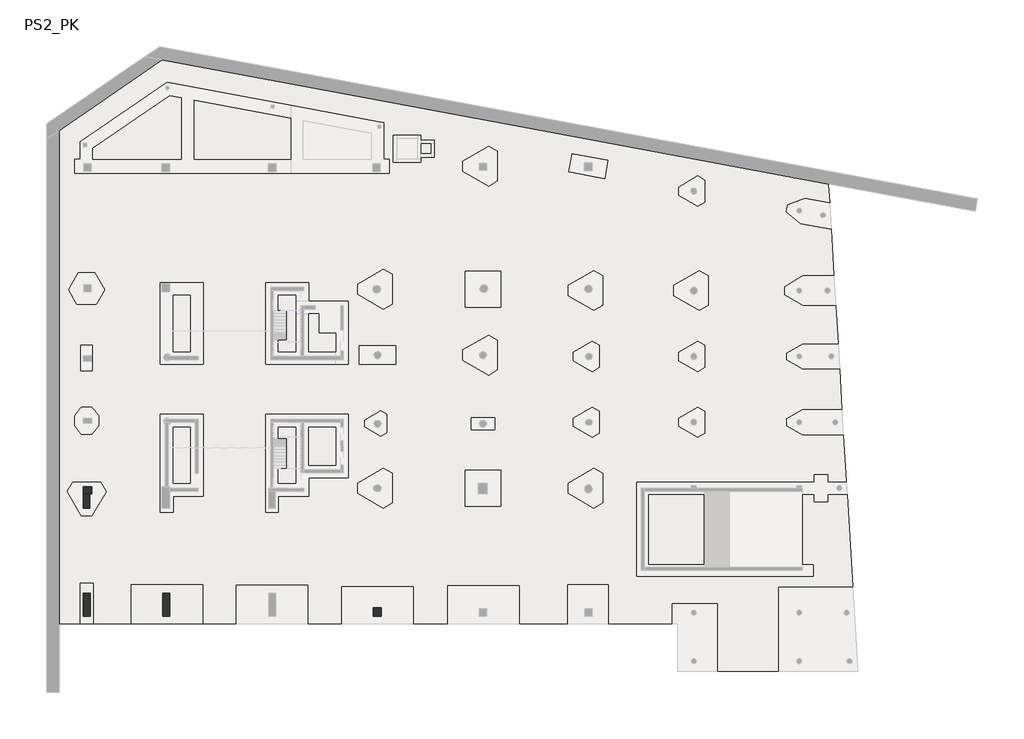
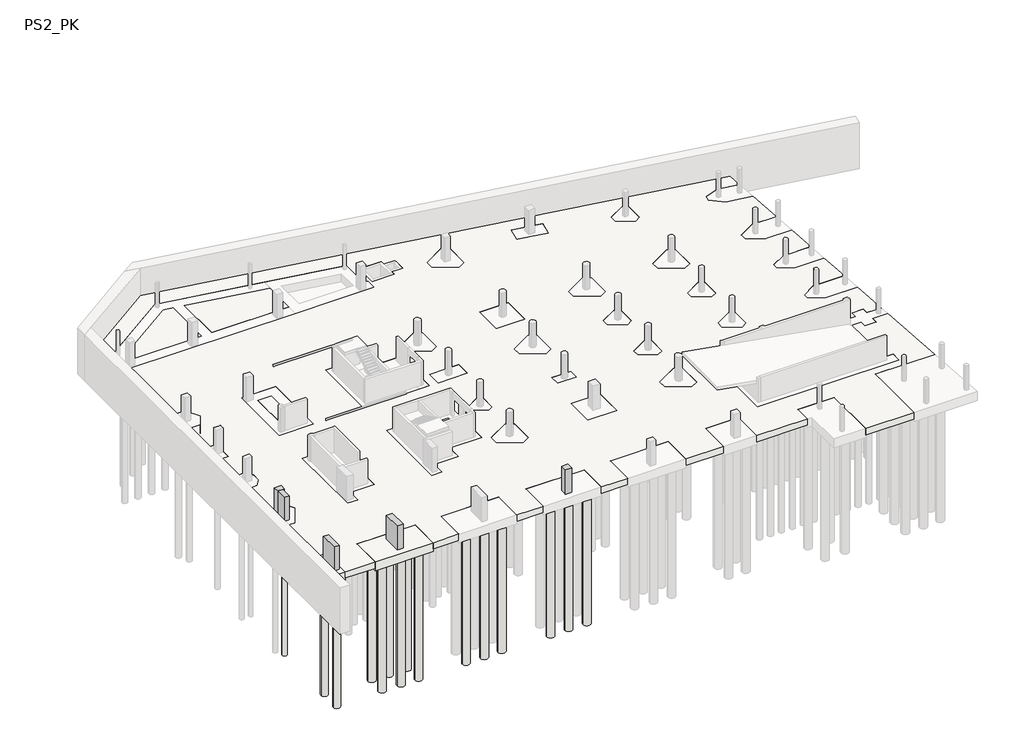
# One storey, part 2 of 10: 19 slabs, 5 columns.
"""IFC4 building model written with IfcOpenShell, lengths in millimetres."""

from ifc_helpers import new_model, si_unit, point, frame, frame_2d, origin, place, context, project, spatial, polyline, circle_curve, trimmed, segment, composite_curve, outline, extrude, faceted_brep, element, save

model = new_model("IFC4")

# Units and contexts
model_context = context("Model", 3, world=origin())
ifc_project = project(units=[si_unit("LENGTHUNIT", "METRE", prefix="MILLI")], contexts=[model_context])

# Site, building, storey
site = spatial("IfcSite", under=ifc_project)
building = spatial("IfcBuilding", under=site)
storey = spatial("IfcBuildingStorey", under=building, Name="PS2_PK", Elevation=-1600.0)

# Columns
placement = place(None, origin())
element("IfcColumn", 1, ObjectType="Concrete-Rectangular-Column : Pilar_Rectangular-Formigo-650x2200", at=placement, inside=storey, context=model_context, shape_type="Brep", body=[
    faceted_brep([(-30765.3135787, -14835.0992041, -1600.0), (-30765.3163586, -17035.0992041, -1600.0), (-31415.3163586, -17035.0983828, -1600.0), (-31415.3135787, -14835.0983828, -1600.0), (-30765.3135787, -14835.0992041, 1400.0), (-30765.3163586, -17035.0992041, 1400.0), (-31415.3163586, -17035.0983828, 1400.0), (-31415.3135787, -14835.0983828, 1400.0), (-30815.3284346, -14835.0991409, 1400.0)], [[[0, 1, 2, 3]], [[1, 0, 4, 5]], [[2, 1, 5, 6]], [[3, 2, 6, 7]], [[0, 3, 7, 8, 4]], [[5, 4, 8, 7, 6]]]),
])
element("IfcColumn", 2, ObjectType="Concrete-Rectangular-Column : Pilar_Rectangular-Formigo-700x2200", at=placement, inside=storey, context=model_context, shape_type="SweptSolid", body=[
    extrude(outline(polyline([(-23215.3135735, -14835.099963), (-23215.3163585, -17035.099963), (-23915.3163585, -17035.0990768), (-23915.3135735, -14835.0990768), (-23215.3135735, -14835.099963)])), frame((0.0, 0.0, -1600.0), z_axis=(0.0, 0.0, 1.0), x_axis=(1.0, 0.0, 0.0)), (0.0, 0.0, 1.0), 3050.0),
])
element("IfcColumn", 3, ObjectType="Concrete-Rectangular-Column : Pilar_Rectangular-Formigo-750x800", at=placement, inside=storey, context=model_context, shape_type="SweptSolid", body=[
    extrude(outline(polyline([(-3165.3153461, -16235.1196631), (-3165.3163562, -17035.1196631), (-3915.3163562, -17035.1187161), (-3915.3153461, -16235.1187161), (-3165.3153461, -16235.1196631)])), frame((0.0, 0.0, -1600.0), z_axis=(0.0, 0.0, 1.0), x_axis=(1.0, 0.0, 0.0)), (0.0, 0.0, 1.0), 3050.0),
])
element("IfcColumn", 4, ObjectType="Concrete-Rectangular-Column : Pilar_Rectangular-Formigo-650x800", at=placement, inside=storey, context=model_context, shape_type="Brep", body=[
    faceted_brep([(-31415.3382463, -4760.5656877, -1600.0), (-30615.3382463, -4760.5666974, -1600.0), (-30615.3390666, -5410.5666974, -1600.0), (-30815.2905417, -5410.566445, -1600.0), (-31415.3390666, -5410.5656877, -1600.0), (-31415.3382463, -4760.5656877, 1400.0), (-30615.3382463, -4760.5666974, 1400.0), (-30615.3390666, -5410.5666974, 1400.0), (-30815.2905417, -5410.566445, 1400.0), (-31415.3390666, -5410.5656877, 1400.0)], [[[0, 1, 2, 3, 4]], [[1, 0, 5, 6]], [[2, 1, 6, 7]], [[4, 3, 2, 7, 8, 9]], [[0, 4, 9, 5]], [[6, 5, 9, 8, 7]]]),
])
element("IfcColumn", 5, ObjectType="Concrete-Rectangular-Column : Pilar_Rectangular-Formigo-600x1900", at=placement, inside=storey, context=model_context, shape_type="SweptSolid", body=[
    extrude(outline(polyline([(-30815.2906071, -6785.0991439), (-31415.2906071, -6785.0991153), (-31415.2905417, -5410.5656877), (-30815.2905417, -5410.566445), (-30815.2906071, -6785.0991439)])), frame((0.0, 0.0, -1600.0), z_axis=(0.0, 0.0, 1.0), x_axis=(1.0, 0.0, 0.0)), (0.0, 0.0, 1.0), 3000.0),
])

# Slabs
element("IfcSlab", 6, ObjectType="Forjat_Llosa-Formigo-800", at=placement, inside=storey, context=model_context, shape_type="Brep", body=[
    faceted_brep([(-23930.3270635, 35743.361696, -2400.0), (39264.3843442, 23967.0549216, -2400.0), (39370.5104231, 22187.427328, -2400.0), (37018.9340764, 22601.0456277, -2400.0), (35327.7485575, 21984.6922065, -2400.0), (35215.1486836, 21344.5193628, -2400.0), (36594.5191648, 20188.086453, -2400.0), (39520.4286894, 19673.4488024, -2400.0), (39781.0118611, 15303.7311284, -2400.0), (36866.9022695, 15303.7348156, -2400.0), (35051.1197574, 14248.7780085, -2400.0), (35051.1187805, 13477.078865, -2400.0), (36866.8986333, 12428.7348156, -2400.0), (39952.4592477, 12428.7309115, -2400.0), (40166.479341, 8839.8292249, -2400.0), (36809.4552451, 8839.8334717, -2400.0), (35250.6083804, 7939.8354441, -2400.0), (35250.6075582, 7289.8354437, -2400.0), (36809.4521466, 6389.833472, -2400.0), (40312.5823311, 6389.8290421, -2400.0), (40538.4456274, 2602.3287555, -2400.0), (36809.447356, 2602.3334714, -2400.0), (35250.6004904, 1702.3354448, -2400.0), (35250.5996686, 1052.3354439, -2400.0), (36809.444257, 152.3334726, -2400.0), (40684.5486176, 152.3285708, -2400.0), (40949.1739317, -4285.1717655, -2400.0), (39234.6791175, -4285.1695956, -2400.0), (39234.6800305, -3563.1460018, -2400.0), (37884.6800304, -3563.1442939, -2400.0), (37884.6791174, -4285.1678881, -2400.0), (21034.6791178, -4285.1465742, -2400.0), (21034.6677332, -13285.1465747, -2400.0), (37884.6677328, -13285.1678881, -2400.0), (37884.669251, -12085.1678888, -2400.0), (22234.6692516, -12085.1480932, -2400.0), (22234.6776006, -5485.1480926, -2400.0), (37884.6775991, -5485.1678883, -2400.0), (37884.6766788, -6213.1442933, -2400.0), (39234.6766775, -6213.1460017, -2400.0), (39234.6775992, -5485.1695962, -2400.0), (41020.7345799, -5485.1718544, -2400.0), (41543.8177833, -14256.7510166, -2400.0), (34485.7399193, -14256.7420885, -2400.0), (34485.729816, -22244.2070348, -2400.0), (28744.3798642, -22244.2002778, -2400.0), (28744.3881261, -15810.1618334, -2400.0), (24409.6645394, -15810.1562743, -2400.0), (24409.6620967, -17733.5045639, -2400.0), (18431.1823523, -17733.3579028, -2400.0), (18431.1823523, -14006.1082963, -2400.0), (14475.6888375, -14006.1082963, -2400.0), (14475.6888375, -17733.2608686, -2400.0), (9972.6673336, -17733.1504027, -2400.0), (9972.6673336, -14101.0842931, -2400.0), (3072.6719289, -14101.0842931, -2400.0), (3072.6719289, -17732.9811353, -2400.0), (-65.3378924, -17732.9041552, -2400.0), (-65.3378924, -14176.6706788, -2400.0), (-6965.3333948, -14176.6706788, -2400.0), (-6965.3333948, -17732.7348879, -2400.0), (-10083.3637576, -17732.6583979, -2400.0), (-10083.3637576, -14034.840768, -2400.0), (-16983.359079, -14034.840768, -2400.0), (-16983.359079, -17732.4891306, -2400.0), (-20049.2299195, -17732.4139202, -2400.0), (-20049.2299195, -14013.9366756, -2400.0), (-26949.2252155, -14013.9366756, -2400.0), (-26949.2252155, -17732.2446529, -2400.0), (-30455.3378921, -17732.1586426, -2400.0), (-30455.3378921, -13862.9203006, -2400.0), (-31775.3329977, -13862.9203006, -2400.0), (-31775.3329977, -17732.1262612, -2400.0), (-33717.5141758, -17732.0786165, -2400.0), (-33717.5141758, 29038.6998048, -2400.0), (7855.899446, 6339.8700948, -2400.0), (7855.9029882, 9139.8700951, -2400.0), (7011.5288361, 9627.3711625, -2400.0), (4586.655934, 8227.3742298, -2400.0), (4586.6547012, 7252.3742307, -2400.0), (7011.5240598, 5852.3711635, -2400.0), (14586.6399646, -4397.6384189, -2400.0), (14586.6387319, -5372.6384181, -2400.0), (17011.5080914, -6772.6414857, -2400.0), (17855.8834767, -6285.1425544, -2400.0), (17855.8870193, -3485.1425542, -2400.0), (17011.5128659, -2997.6414858, -2400.0), (4784.6762081, -6585.1285205, -2400.0), (8184.676208, -6585.1328202, -2400.0), (8184.6805086, -3185.1328213, -2400.0), (4784.6805083, -3185.1285202, -2400.0), (-5413.3600354, -4397.6131204, -2400.0), (-5413.3612686, -5372.6131205, -2400.0), (-2988.4919086, -6772.6161877, -2400.0), (-2144.1165238, -6285.117256, -2400.0), (-2144.1129816, -3485.1172552, -2400.0), (-2988.4871337, -2997.6161874, -2400.0), (-10065.3141732, -3885.1075686, -2400.0), (-6290.3192274, -3885.1123435, -2400.0), (-6290.3116377, 2114.8879885, -2400.0), (-14115.3127876, 2114.8978864, -2400.0), (-14115.3245507, -7185.1021144, -2400.0), (-12915.32455, -7185.1036303, -2400.0), (-12915.3225908, -5635.1036314, -2400.0), (-10065.3163867, -5635.107237, -2400.0), (-22915.3225913, -5635.0909817, -2400.0), (-20065.3225907, -5635.0945878, -2400.0), (-20065.3127877, 2114.9054127, -2400.0), (-24115.3127885, 2114.9105356, -2400.0), (-24115.3245511, -7185.0894656, -2400.0), (-22915.3245514, -7185.0909829, -2400.0), (-31617.4416776, -7518.4958606, -2400.0), (-30613.5959454, -7518.4971295, -2400.0), (-29275.4616643, -5214.6478853, -2400.0), (-29771.9049698, -4341.102566, -2400.0), (-32445.1659501, -4341.0991851, -2400.0), (-32954.708224, -5195.2234012, -2400.0), (-30628.9635193, 212.290831, -2400.0), (-29986.983952, 1028.2899325, -2400.0), (-29986.9827209, 2001.5459919, -2400.0), (-30628.9602242, 2817.5467175, -2400.0), (-31602.2162837, 2817.547949, -2400.0), (-32244.195852, 2001.5488461, -2400.0), (-32244.1970835, 1028.2927876, -2400.0), (-31602.2195797, 212.2920616, -2400.0), (-2627.6389786, 352.3833557, -2400.0), (-2627.636701, 2152.3833555, -2400.0), (-3190.5528032, 2477.3840674, -2400.0), (-4749.3996674, 1577.3860385, -2400.0), (-4749.4004892, 927.3860381, -2400.0), (-3190.5559007, 27.3840668, -2400.0), (7609.6868326, 1814.8704068, -2400.0), (5359.6868331, 1814.8732535, -2400.0), (5359.6853796, 664.8732536, -2400.0), (7609.6853782, 664.8704069, -2400.0), (16866.8864598, 2803.7601136, -2400.0), (15051.103945, 1748.8033065, -2400.0), (15051.1029689, 977.1041625, -2400.0), (16866.8828223, -71.2398878, -2400.0), (17538.0530008, 316.2592648, -2400.0), (17538.0556559, 2416.2592644, -2400.0), (26866.8864584, 2803.7474639, -2400.0), (25051.1039459, 1748.7906587, -2400.0), (25051.102968, 977.0915147, -2400.0), (26866.8828227, -71.2525361, -2400.0), (27538.0529998, 316.2466155, -2400.0), (27538.0556568, 2416.2466151, -2400.0), (26866.8943642, 9053.7474649, -2400.0), (25051.1118512, 7998.7906582, -2400.0), (25051.1108747, 7227.0915137, -2400.0), (26866.890728, 6178.7474644, -2400.0), (27538.0609065, 6566.2466146, -2400.0), (27538.0635631, 8666.2466161, -2400.0), (16866.8943642, 9053.7601136, -2400.0), (15051.1118503, 7998.8033075, -2400.0), (15051.1108738, 7227.104163, -2400.0), (16866.8907276, 6178.7601132, -2400.0), (17538.0609065, 6566.2592643, -2400.0), (17538.0635621, 8666.2592644, -2400.0), (-1790.3045642, 8614.8822969, -2400.0), (-5240.3045662, 8614.8866605, -2400.0), (-5240.3067795, 6864.8866605, -2400.0), (-1790.3067797, 6864.8822969, -2400.0), (-10065.2929865, 12864.8930964, -2400.0), (-10065.2907731, 14614.8927644, -2400.0), (-14115.296976, 14614.8978873, -2400.0), (-14115.3067799, 6864.8978864, -2400.0), (-6290.3056291, 6864.887989, -2400.0), (-6290.2980398, 12864.8883215, -2400.0), (-24115.306779, 6864.9105361, -2400.0), (-20065.3067796, 6864.9054127, -2400.0), (-20065.2969757, 14614.9054118, -2400.0), (-24115.296976, 14614.9105356, -2400.0), (-30565.5808257, 8689.9186941, -2400.0), (-31665.5808262, 8689.9200851, -2400.0), (-31665.5839247, 6239.9200849, -2400.0), (-30565.583926, 6239.9186948, -2400.0), (-30186.3842538, 12576.4055184, -2400.0), (-29409.1416483, 13922.6252674, -2400.0), (-30342.1577997, 15538.6613654, -2400.0), (-31896.6396031, 15538.6633324, -2400.0), (-32829.6598431, 13922.6295949, -2400.0), (-32052.4206442, 12576.4078785, -2400.0), (-23482.9022416, 33625.5735157, -2400.0), (-31715.282563, 27986.0387498, -2400.0), (-31715.2846771, 26314.9201486, -2400.0), (-32240.2821764, 26314.9208126, -2400.0), (-32240.2838215, 25014.9208132, -2400.0), (-2390.2838219, 25014.8830557, -2400.0), (-2390.2821778, 26314.883056, -2400.0), (-2915.2796771, 26314.8837209, -2400.0), (-2915.2752776, 29792.7810884, -2400.0), (-2144.0891069, 15389.8827438, -2400.0), (-2988.4632595, 15877.3838122, -2400.0), (-5413.3361598, 14477.3868796, -2400.0), (-5413.337393, 13502.3868799, -2400.0), (-2988.4680339, 12102.3838123, -2400.0), (-2144.0926487, 12589.8827436, -2400.0), (8184.7043828, 15689.8696803, -2400.0), (4784.7043825, 15689.8739809, -2400.0), (4784.7000828, 12289.8739801, -2400.0), (8184.7000817, 12289.8696794, -2400.0), (17855.9107353, 15264.8574449, -2400.0), (17011.5365827, 15752.3585142, -2400.0), (14586.6636815, 14352.3615815, -2400.0), (14586.6624488, 13377.3615819, -2400.0), (17011.5318083, 11977.3585138, -2400.0), (17855.9071944, 12464.8574465, -2400.0), (27855.9107353, 15264.8447975, -2400.0), (27011.5365827, 15752.3458654, -2400.0), (24586.663681, 14352.3489323, -2400.0), (24586.6624473, 13377.3489331, -2400.0), (27011.5318087, 11977.3458655, -2400.0), (27855.9071935, 12464.8447963, -2400.0), (26866.9142071, 24740.9213301, -2400.0), (25051.1316927, 23685.9645249, -2400.0), (25051.1307172, 22914.2653799, -2400.0), (26866.91057, 21865.9213306, -2400.0), (27538.0807481, 22253.4204822, -2400.0), (27538.0834055, 24353.4204823, -2400.0), (18340.8208483, 26209.03609, -2400.0), (14949.2078667, 26841.0656674, -2400.0), (14628.6131535, 25120.682271, -2400.0), (18020.2261355, 24488.652694, -2400.0), (7855.9256607, 27064.8700958, -2400.0), (7011.5515081, 27552.3711641, -2400.0), (4586.6786083, 26152.374231, -2400.0), (4586.6773742, 25177.3742305, -2400.0), (7011.5467341, 23777.3711633, -2400.0), (7855.9221194, 24264.870096, -2400.0), (1884.7180916, 26522.598493, -2400.0), (1884.7201149, 28122.5984937, -2400.0), (584.7201154, 28122.6001377, -2400.0), (584.7207465, 28621.4217283, -2400.0), (-2015.2792535, 28621.4250168, -2400.0), (-2015.2825509, 26014.8825801, -2400.0), (584.7174486, 26014.879291, -2400.0), (584.718091, 26522.6001382, -2400.0), (39264.3843442, 23967.0549216, -1600.0), (-23930.3270635, 35743.361696, -1600.0), (-33717.5141758, 29038.6998048, -1600.0), (-33717.5141758, -17732.0786165, -1600.0), (-31775.3329977, -17732.1262612, -1600.0), (-31775.3329977, -13862.9203006, -1600.0), (-30455.3378921, -13862.9203006, -1600.0), (-30455.3378921, -17732.1586426, -1600.0), (-26949.2252155, -17732.2446529, -1600.0), (-26949.2252155, -14013.9366756, -1600.0), (-20049.2299195, -14013.9366756, -1600.0), (-20049.2299195, -17732.4139202, -1600.0), (-16983.359079, -17732.4891306, -1600.0), (-16983.359079, -14034.840768, -1600.0), (-10083.3637576, -14034.840768, -1600.0), (-10083.3637576, -17732.6583979, -1600.0), (-6965.3333948, -17732.7348879, -1600.0), (-6965.3333948, -14176.6706788, -1600.0), (-65.3378924, -14176.6706788, -1600.0), (-65.3378924, -17732.9041552, -1600.0), (3072.6719289, -17732.9811353, -1600.0), (3072.6719289, -14101.0842931, -1600.0), (9972.6673336, -14101.0842931, -1600.0), (9972.6673336, -17733.1504027, -1600.0), (14475.6888375, -17733.2608686, -1600.0), (14475.6888375, -14006.1082963, -1600.0), (18431.1823523, -14006.1082963, -1600.0), (18431.1823523, -17733.3579028, -1600.0), (24409.6620967, -17733.5045639, -1600.0), (24409.6645394, -15810.1562743, -1600.0), (28744.3881261, -15810.1618334, -1600.0), (28744.3798642, -22244.2002778, -1600.0), (34485.729816, -22244.2070348, -1600.0), (34485.7399193, -14256.7420885, -1600.0), (41543.8177833, -14256.7510166, -1600.0), (41020.7345799, -5485.1718544, -1600.0), (39234.6775992, -5485.1695962, -1600.0), (39234.6766775, -6213.1460017, -1600.0), (37884.6766788, -6213.1442933, -1600.0), (37884.6775991, -5485.1678883, -1600.0), (22234.6776006, -5485.1480926, -1600.0), (22234.6692516, -12085.1480932, -1600.0), (37884.669251, -12085.1678888, -1600.0), (37884.6677328, -13285.1678881, -1600.0), (21034.6677332, -13285.1465747, -1600.0), (21034.6791178, -4285.1465742, -1600.0), (37884.6791174, -4285.1678881, -1600.0), (37884.6800304, -3563.1442939, -1600.0), (39234.6800305, -3563.1460018, -1600.0), (39234.6791175, -4285.1695956, -1600.0), (40949.1739317, -4285.1717655, -1600.0), (40684.5486176, 152.3285708, -1600.0), (36809.444257, 152.3334726, -1600.0), (35250.5996686, 1052.3354439, -1600.0), (35250.6004904, 1702.3354448, -1600.0), (36809.447356, 2602.3334714, -1600.0), (40538.4456274, 2602.3287555, -1600.0), (40312.5823311, 6389.8290421, -1600.0), (36809.4521466, 6389.833472, -1600.0), (35250.6075582, 7289.8354437, -1600.0), (35250.6083804, 7939.8354441, -1600.0), (36809.4552451, 8839.8334717, -1600.0), (40166.479341, 8839.8292249, -1600.0), (39952.4592477, 12428.7309115, -1600.0), (36866.8986333, 12428.7348156, -1600.0), (35051.1187805, 13477.078865, -1600.0), (35051.1197574, 14248.7780085, -1600.0), (36866.9022695, 15303.7348156, -1600.0), (39781.0118611, 15303.7311284, -1600.0), (39520.4286894, 19673.4488024, -1600.0), (36594.5191648, 20188.086453, -1600.0), (35215.1486836, 21344.5193628, -1600.0), (35327.7485575, 21984.6922065, -1600.0), (37018.9340764, 22601.0456277, -1600.0), (39370.5104231, 22187.427328, -1600.0), (7855.9029882, 9139.8700951, -1600.0), (7855.899446, 6339.8700948, -1600.0), (7011.5240598, 5852.3711635, -1600.0), (4586.6547012, 7252.3742307, -1600.0), (4586.655934, 8227.3742298, -1600.0), (7011.5288361, 9627.3711625, -1600.0), (14586.6387319, -5372.6384181, -1600.0), (14586.6399646, -4397.6384189, -1600.0), (17011.5128659, -2997.6414858, -1600.0), (17855.8870193, -3485.1425542, -1600.0), (17855.8834767, -6285.1425544, -1600.0), (17011.5080914, -6772.6414857, -1600.0), (8184.676208, -6585.1328202, -1600.0), (4784.6762081, -6585.1285205, -1600.0), (4784.6805083, -3185.1285202, -1600.0), (8184.6805086, -3185.1328213, -1600.0), (-5413.3612686, -5372.6131205, -1600.0), (-5413.3600354, -4397.6131204, -1600.0), (-2988.4871337, -2997.6161874, -1600.0), (-2144.1129816, -3485.1172552, -1600.0), (-2144.1165238, -6285.117256, -1600.0), (-2988.4919086, -6772.6161877, -1600.0), (-6290.3192274, -3885.1123435, -1600.0), (-10065.3141732, -3885.1075686, -1600.0), (-10065.3163867, -5635.107237, -1600.0), (-12915.3225908, -5635.1036314, -1600.0), (-12915.32455, -7185.1036303, -1600.0), (-14115.3245507, -7185.1021144, -1600.0), (-14115.3127876, 2114.8978864, -1600.0), (-6290.3116377, 2114.8879885, -1600.0), (-20065.3225907, -5635.0945878, -1600.0), (-22915.3225913, -5635.0909817, -1600.0), (-22915.3245514, -7185.0909829, -1600.0), (-24115.3245511, -7185.0894656, -1600.0), (-24115.3127885, 2114.9105356, -1600.0), (-20065.3127877, 2114.9054127, -1600.0), (-30613.5959454, -7518.4971295, -1600.0), (-31617.4416776, -7518.4958606, -1600.0), (-32954.708224, -5195.2234012, -1600.0), (-32445.1659501, -4341.0991851, -1600.0), (-29771.9049698, -4341.102566, -1600.0), (-29275.4616643, -5214.6478853, -1600.0), (-29986.983952, 1028.2899325, -1600.0), (-30628.9635193, 212.290831, -1600.0), (-31602.2195797, 212.2920616, -1600.0), (-32244.1970835, 1028.2927876, -1600.0), (-32244.195852, 2001.5488461, -1600.0), (-31602.2162837, 2817.547949, -1600.0), (-30628.9602242, 2817.5467175, -1600.0), (-29986.9827209, 2001.5459919, -1600.0), (-2627.636701, 2152.3833555, -1600.0), (-2627.6389786, 352.3833557, -1600.0), (-3190.5559007, 27.3840668, -1600.0), (-4749.4004892, 927.3860381, -1600.0), (-4749.3996674, 1577.3860385, -1600.0), (-3190.5528032, 2477.3840674, -1600.0), (5359.6868331, 1814.8732535, -1600.0), (7609.6868326, 1814.8704068, -1600.0), (7609.6853782, 664.8704069, -1600.0), (5359.6853796, 664.8732536, -1600.0), (15051.103945, 1748.8033065, -1600.0), (16866.8864598, 2803.7601136, -1600.0), (17538.0556559, 2416.2592644, -1600.0), (17538.0530008, 316.2592648, -1600.0), (16866.8828223, -71.2398878, -1600.0), (15051.1029689, 977.1041625, -1600.0), (25051.1039459, 1748.7906587, -1600.0), (26866.8864584, 2803.7474639, -1600.0), (27538.0556568, 2416.2466151, -1600.0), (27538.0529998, 316.2466155, -1600.0), (26866.8828227, -71.2525361, -1600.0), (25051.102968, 977.0915147, -1600.0), (25051.1118512, 7998.7906582, -1600.0), (26866.8943642, 9053.7474649, -1600.0), (27538.0635631, 8666.2466161, -1600.0), (27538.0609065, 6566.2466146, -1600.0), (26866.890728, 6178.7474644, -1600.0), (25051.1108747, 7227.0915137, -1600.0), (15051.1118503, 7998.8033075, -1600.0), (16866.8943642, 9053.7601136, -1600.0), (17538.0635621, 8666.2592644, -1600.0), (17538.0609065, 6566.2592643, -1600.0), (16866.8907276, 6178.7601132, -1600.0), (15051.1108738, 7227.104163, -1600.0), (-5240.3045662, 8614.8866605, -1600.0), (-1790.3045642, 8614.8822969, -1600.0), (-1790.3067797, 6864.8822969, -1600.0), (-5240.3067795, 6864.8866605, -1600.0), (-10065.2907731, 14614.8927644, -1600.0), (-10065.2929865, 12864.8930964, -1600.0), (-6290.2980398, 12864.8883215, -1600.0), (-6290.3056291, 6864.887989, -1600.0), (-7490.3056279, 6864.8895068, -1600.0), (-14115.3067799, 6864.8978864, -1600.0), (-14115.296976, 14614.8978873, -1600.0), (-20065.3067796, 6864.9054127, -1600.0), (-24115.306779, 6864.9105361, -1600.0), (-24115.296976, 14614.9105356, -1600.0), (-20065.2969757, 14614.9054118, -1600.0), (-31665.5808262, 8689.9200851, -1600.0), (-30565.5808257, 8689.9186941, -1600.0), (-30565.583926, 6239.9186948, -1600.0), (-31665.5839247, 6239.9200849, -1600.0), (-29409.1416483, 13922.6252674, -1600.0), (-30186.3842538, 12576.4055184, -1600.0), (-32052.4206442, 12576.4078785, -1600.0), (-32829.6598431, 13922.6295949, -1600.0), (-31896.6396031, 15538.6633324, -1600.0), (-30342.1577997, 15538.6613654, -1600.0), (-31715.282563, 27986.0387498, -1600.0), (-23482.9022416, 33625.5735157, -1600.0), (-11740.275697, 31437.3264138, -1600.0), (-2915.2752776, 29792.7810884, -1600.0), (-2915.2796771, 26314.8837209, -1600.0), (-2390.2821778, 26314.883056, -1600.0), (-2390.2838219, 25014.8830557, -1600.0), (-11740.2838214, 25014.8948826, -1600.0), (-32240.2838215, 25014.9208132, -1600.0), (-32240.2821764, 26314.9208126, -1600.0), (-31715.2846771, 26314.9201486, -1600.0), (-2988.4632595, 15877.3838122, -1600.0), (-2144.0891069, 15389.8827438, -1600.0), (-2144.0926487, 12589.8827436, -1600.0), (-2988.4680339, 12102.3838123, -1600.0), (-5413.337393, 13502.3868799, -1600.0), (-5413.3361598, 14477.3868796, -1600.0), (4784.7043825, 15689.8739809, -1600.0), (8184.7043828, 15689.8696803, -1600.0), (8184.7000817, 12289.8696794, -1600.0), (4784.7000828, 12289.8739801, -1600.0), (17011.5365827, 15752.3585142, -1600.0), (17855.9107353, 15264.8574449, -1600.0), (17855.9071944, 12464.8574465, -1600.0), (17011.5318083, 11977.3585138, -1600.0), (14586.6624488, 13377.3615819, -1600.0), (14586.6636815, 14352.3615815, -1600.0), (27011.5365827, 15752.3458654, -1600.0), (27855.9107353, 15264.8447975, -1600.0), (27855.9071935, 12464.8447963, -1600.0), (27011.5318087, 11977.3458655, -1600.0), (24586.6624473, 13377.3489331, -1600.0), (24586.663681, 14352.3489323, -1600.0), (25051.1316927, 23685.9645249, -1600.0), (26866.9142071, 24740.9213301, -1600.0), (27538.0834055, 24353.4204823, -1600.0), (27538.0807481, 22253.4204822, -1600.0), (26866.91057, 21865.9213306, -1600.0), (25051.1307172, 22914.2653799, -1600.0), (14949.2078667, 26841.0656674, -1600.0), (18340.8208483, 26209.03609, -1600.0), (18020.2261355, 24488.652694, -1600.0), (14628.6131535, 25120.682271, -1600.0), (7011.5515081, 27552.3711641, -1600.0), (7855.9256607, 27064.8700958, -1600.0), (7855.9221194, 24264.870096, -1600.0), (7011.5467341, 23777.3711633, -1600.0), (4586.6773742, 25177.3742305, -1600.0), (4586.6786083, 26152.374231, -1600.0), (1884.7201149, 28122.5984937, -1600.0), (1884.7180916, 26522.598493, -1600.0), (584.718091, 26522.6001382, -1600.0), (584.7174486, 26014.879291, -1600.0), (-2015.2825509, 26014.8825801, -1600.0), (-2015.2792535, 28621.4250168, -1600.0), (584.7207465, 28621.4217283, -1600.0), (584.7201154, 28122.6001377, -1600.0)], [[[0, 1, 2, 3, 4, 5, 6, 7, 8, 9, 10, 11, 12, 13, 14, 15, 16, 17, 18, 19, 20, 21, 22, 23, 24, 25, 26, 27, 28, 29, 30, 31, 32, 33, 34, 35, 36, 37, 38, 39, 40, 41, 42, 43, 44, 45, 46, 47, 48, 49, 50, 51, 52, 53, 54, 55, 56, 57, 58, 59, 60, 61, 62, 63, 64, 65, 66, 67, 68, 69, 70, 71, 72, 73, 74], [75, 76, 77, 78, 79, 80], [81, 82, 83, 84, 85, 86], [87, 88, 89, 90], [91, 92, 93, 94, 95, 96], [97, 98, 99, 100, 101, 102, 103, 104], [105, 106, 107, 108, 109, 110], [111, 112, 113, 114, 115, 116], [117, 118, 119, 120, 121, 122, 123, 124], [125, 126, 127, 128, 129, 130], [131, 132, 133, 134], [135, 136, 137, 138, 139, 140], [141, 142, 143, 144, 145, 146], [147, 148, 149, 150, 151, 152], [153, 154, 155, 156, 157, 158], [159, 160, 161, 162], [163, 164, 165, 166, 167, 168], [169, 170, 171, 172], [173, 174, 175, 176], [177, 178, 179, 180, 181, 182], [183, 184, 185, 186, 187, 188, 189, 190, 191], [192, 193, 194, 195, 196, 197], [198, 199, 200, 201], [202, 203, 204, 205, 206, 207], [208, 209, 210, 211, 212, 213], [214, 215, 216, 217, 218, 219], [220, 221, 222, 223], [224, 225, 226, 227, 228, 229], [230, 231, 232, 233, 234, 235, 236, 237]], [[238, 239, 240, 241, 242, 243, 244, 245, 246, 247, 248, 249, 250, 251, 252, 253, 254, 255, 256, 257, 258, 259, 260, 261, 262, 263, 264, 265, 266, 267, 268, 269, 270, 271, 272, 273, 274, 275, 276, 277, 278, 279, 280, 281, 282, 283, 284, 285, 286, 287, 288, 289, 290, 291, 292, 293, 294, 295, 296, 297, 298, 299, 300, 301, 302, 303, 304, 305, 306, 307, 308, 309, 310, 311, 312], [313, 314, 315, 316, 317, 318], [319, 320, 321, 322, 323, 324], [325, 326, 327, 328], [329, 330, 331, 332, 333, 334], [335, 336, 337, 338, 339, 340, 341, 342], [343, 344, 345, 346, 347, 348], [349, 350, 351, 352, 353, 354], [355, 356, 357, 358, 359, 360, 361, 362], [363, 364, 365, 366, 367, 368], [369, 370, 371, 372], [373, 374, 375, 376, 377, 378], [379, 380, 381, 382, 383, 384], [385, 386, 387, 388, 389, 390], [391, 392, 393, 394, 395, 396], [397, 398, 399, 400], [401, 402, 403, 404, 405, 406, 407], [408, 409, 410, 411], [412, 413, 414, 415], [416, 417, 418, 419, 420, 421], [422, 423, 424, 425, 426, 427, 428, 429, 430, 431, 432], [433, 434, 435, 436, 437, 438], [439, 440, 441, 442], [443, 444, 445, 446, 447, 448], [449, 450, 451, 452, 453, 454], [455, 456, 457, 458, 459, 460], [461, 462, 463, 464], [465, 466, 467, 468, 469, 470], [471, 472, 473, 474, 475, 476, 477, 478]], [[1, 0, 239, 238]], [[1, 238, 312, 2]], [[272, 42, 41, 273]], [[288, 26, 25, 289]], [[294, 20, 19, 295]], [[300, 14, 13, 301]], [[306, 8, 7, 307]], [[269, 45, 44, 270]], [[241, 73, 72, 242]], [[253, 61, 60, 254]], [[64, 250, 249, 65]], [[68, 246, 245, 69]], [[257, 57, 56, 258]], [[261, 53, 52, 262]], [[265, 49, 48, 266]], [[74, 73, 241, 240]], [[0, 74, 240, 239]], [[313, 76, 75, 314]], [[314, 75, 80, 315]], [[315, 80, 79, 316]], [[316, 79, 78, 317]], [[317, 78, 77, 318]], [[76, 313, 318, 77]], [[252, 62, 61, 253]], [[63, 251, 250, 64]], [[62, 252, 251, 63]], [[248, 66, 65, 249]], [[67, 247, 246, 68]], [[66, 248, 247, 67]], [[244, 70, 69, 245]], [[71, 243, 242, 72]], [[70, 244, 243, 71]], [[256, 58, 57, 257]], [[59, 255, 254, 60]], [[58, 256, 255, 59]], [[260, 54, 53, 261]], [[55, 259, 258, 56]], [[54, 260, 259, 55]], [[264, 50, 49, 265]], [[51, 263, 262, 52]], [[50, 264, 263, 51]], [[47, 267, 266, 48]], [[267, 47, 46, 268]], [[268, 46, 45, 269]], [[271, 43, 42, 272]], [[43, 271, 270, 44]], [[274, 40, 39, 275]], [[275, 39, 38, 276]], [[276, 38, 37, 277]], [[277, 37, 36, 278]], [[278, 36, 35, 279]], [[279, 35, 34, 280]], [[280, 34, 33, 281]], [[281, 33, 32, 282]], [[282, 32, 31, 283]], [[283, 31, 30, 284]], [[284, 30, 29, 285]], [[285, 29, 28, 286]], [[286, 28, 27, 287]], [[287, 27, 26, 288]], [[40, 274, 273, 41]], [[319, 82, 81, 320]], [[320, 81, 86, 321]], [[321, 86, 85, 322]], [[322, 85, 84, 323]], [[323, 84, 83, 324]], [[82, 319, 324, 83]], [[325, 88, 87, 326]], [[326, 87, 90, 327]], [[327, 90, 89, 328]], [[88, 325, 328, 89]], [[329, 92, 91, 330]], [[330, 91, 96, 331]], [[331, 96, 95, 332]], [[332, 95, 94, 333]], [[333, 94, 93, 334]], [[92, 329, 334, 93]], [[335, 98, 97, 336]], [[336, 97, 104, 337]], [[337, 104, 103, 338]], [[338, 103, 102, 339]], [[339, 102, 101, 340]], [[340, 101, 100, 341]], [[341, 100, 99, 342]], [[98, 335, 342, 99]], [[343, 106, 105, 344]], [[344, 105, 110, 345]], [[345, 110, 109, 346]], [[346, 109, 108, 347]], [[347, 108, 107, 348]], [[106, 343, 348, 107]], [[349, 112, 111, 350]], [[350, 111, 116, 351]], [[351, 116, 115, 352]], [[352, 115, 114, 353]], [[353, 114, 113, 354]], [[112, 349, 354, 113]], [[355, 118, 117, 356]], [[356, 117, 124, 357]], [[357, 124, 123, 358]], [[358, 123, 122, 359]], [[359, 122, 121, 360]], [[360, 121, 120, 361]], [[361, 120, 119, 362]], [[118, 355, 362, 119]], [[363, 126, 125, 364]], [[364, 125, 130, 365]], [[365, 130, 129, 366]], [[366, 129, 128, 367]], [[367, 128, 127, 368]], [[126, 363, 368, 127]], [[369, 132, 131, 370]], [[370, 131, 134, 371]], [[371, 134, 133, 372]], [[132, 369, 372, 133]], [[373, 136, 135, 374]], [[374, 135, 140, 375]], [[375, 140, 139, 376]], [[376, 139, 138, 377]], [[377, 138, 137, 378]], [[136, 373, 378, 137]], [[379, 142, 141, 380]], [[380, 141, 146, 381]], [[381, 146, 145, 382]], [[382, 145, 144, 383]], [[383, 144, 143, 384]], [[142, 379, 384, 143]], [[23, 291, 290, 24]], [[291, 23, 22, 292]], [[292, 22, 21, 293]], [[293, 21, 20, 294]], [[24, 290, 289, 25]], [[296, 18, 17, 297]], [[297, 17, 16, 298]], [[298, 16, 15, 299]], [[299, 15, 14, 300]], [[18, 296, 295, 19]], [[385, 148, 147, 386]], [[386, 147, 152, 387]], [[387, 152, 151, 388]], [[388, 151, 150, 389]], [[389, 150, 149, 390]], [[148, 385, 390, 149]], [[391, 154, 153, 392]], [[392, 153, 158, 393]], [[393, 158, 157, 394]], [[394, 157, 156, 395]], [[395, 156, 155, 396]], [[154, 391, 396, 155]], [[397, 160, 159, 398]], [[398, 159, 162, 399]], [[399, 162, 161, 400]], [[160, 397, 400, 161]], [[401, 164, 163, 402]], [[166, 406, 405, 404, 167]], [[406, 166, 165, 407]], [[164, 401, 407, 165]], [[408, 170, 169, 409]], [[409, 169, 172, 410]], [[410, 172, 171, 411]], [[170, 408, 411, 171]], [[412, 174, 173, 413]], [[413, 173, 176, 414]], [[414, 176, 175, 415]], [[174, 412, 415, 175]], [[416, 178, 177, 417]], [[417, 177, 182, 418]], [[418, 182, 181, 419]], [[419, 181, 180, 420]], [[420, 180, 179, 421]], [[178, 416, 421, 179]], [[422, 184, 183, 423]], [[423, 183, 191, 425, 424]], [[187, 430, 429, 428, 188]], [[430, 187, 186, 431]], [[431, 186, 185, 432]], [[184, 422, 432, 185]], [[425, 191, 190, 426]], [[426, 190, 189, 427]], [[427, 189, 188, 428]], [[433, 193, 192, 434]], [[434, 192, 197, 435]], [[435, 197, 196, 436]], [[436, 196, 195, 437]], [[437, 195, 194, 438]], [[193, 433, 438, 194]], [[439, 199, 198, 440]], [[440, 198, 201, 441]], [[441, 201, 200, 442]], [[199, 439, 442, 200]], [[443, 203, 202, 444]], [[444, 202, 207, 445]], [[445, 207, 206, 446]], [[446, 206, 205, 447]], [[447, 205, 204, 448]], [[203, 443, 448, 204]], [[449, 209, 208, 450]], [[450, 208, 213, 451]], [[451, 213, 212, 452]], [[452, 212, 211, 453]], [[453, 211, 210, 454]], [[209, 449, 454, 210]], [[302, 12, 11, 303]], [[303, 11, 10, 304]], [[304, 10, 9, 305]], [[305, 9, 8, 306]], [[12, 302, 301, 13]], [[310, 4, 3, 311]], [[308, 6, 5, 309]], [[4, 310, 309, 5]], [[311, 3, 2, 312]], [[6, 308, 307, 7]], [[455, 215, 214, 456]], [[456, 214, 219, 457]], [[457, 219, 218, 458]], [[458, 218, 217, 459]], [[459, 217, 216, 460]], [[215, 455, 460, 216]], [[461, 221, 220, 462]], [[462, 220, 223, 463]], [[463, 223, 222, 464]], [[221, 461, 464, 222]], [[465, 225, 224, 466]], [[466, 224, 229, 467]], [[467, 229, 228, 468]], [[468, 228, 227, 469]], [[469, 227, 226, 470]], [[225, 465, 470, 226]], [[231, 230, 472, 471]], [[232, 231, 471, 478]], [[233, 232, 478, 477]], [[234, 233, 477, 476]], [[235, 234, 476, 475]], [[236, 235, 475, 474]], [[237, 236, 474, 473]], [[230, 237, 473, 472]], [[168, 403, 402, 163]], [[403, 168, 167, 404]]]),
    faceted_brep([(-10065.308102, 914.8927637, -2400.0), (-7490.3131551, 914.889507, -2400.0), (-7490.3153689, -835.1108259, -2400.0), (-7490.317708, -2685.1108261, -2400.0), (-10065.3126554, -2685.1075693, -2400.0), (-7490.3131551, 914.889507, -1600.0), (-10065.308102, 914.8927637, -1600.0), (-10065.3126554, -2685.1075693, -1600.0), (-7490.317708, -2685.1108261, -1600.0), (-7490.3153689, -835.1108259, -1600.0)], [[[0, 1, 2, 3, 4]], [[5, 6, 7, 8, 9]], [[5, 1, 0, 6]], [[6, 0, 4, 7]], [[7, 4, 3, 8]], [[8, 3, 2, 9]], [[1, 5, 9, 2]]]),
    faceted_brep([(-12915.3143061, 914.8963689, -2400.0), (-11265.3081026, 914.894282, -2400.0), (-11265.3148682, -4435.1057186, -2400.0), (-12915.3210721, -4435.1036312, -2400.0), (-11265.3081026, 914.894282, -1600.0), (-12915.3143061, 914.8963689, -1600.0), (-12915.3210721, -4435.1036312, -1600.0), (-11265.3148682, -4435.1057186, -1600.0)], [[[0, 1, 2, 3]], [[4, 5, 6, 7]], [[4, 1, 0, 5]], [[5, 0, 3, 6]], [[6, 3, 2, 7]], [[1, 4, 7, 2]]]),
    faceted_brep([(-21265.3210736, -4435.0930698, -2400.0), (-22915.3210721, -4435.0909815, -2400.0), (-22915.3143051, 914.9090181, -2400.0), (-21265.3143052, 914.9069298, -2400.0), (-22915.3210721, -4435.0909815, -1600.0), (-21265.3210736, -4435.0930698, -1600.0), (-21265.3143052, 914.9069298, -1600.0), (-22915.3143051, 914.9090181, -1600.0)], [[[0, 1, 2, 3]], [[4, 5, 6, 7]], [[4, 1, 0, 5]], [[5, 0, 3, 6]], [[6, 3, 2, 7]], [[1, 4, 7, 2]]]),
    faceted_brep([(-12915.3052606, 8064.8963679, -2400.0), (-12915.298495, 13414.8963689, -2400.0), (-11265.2922897, 13414.8942806, -2400.0), (-11265.2990581, 8064.8942819, -2400.0), (-12915.298495, 13414.8963689, -1600.0), (-12915.3052606, 8064.8963679, -1600.0), (-11265.2990581, 8064.8942819, -1600.0), (-11265.2945036, 11664.8946128, -1600.0), (-11265.2929855, 12864.8946143, -1600.0), (-11265.2922897, 13414.8942806, -1600.0)], [[[0, 1, 2, 3]], [[4, 5, 6, 7, 8, 9]], [[4, 1, 0, 5]], [[5, 0, 3, 6]], [[6, 3, 2, 9, 8, 7]], [[1, 4, 9, 2]]]),
    faceted_brep([(-10065.2990574, 8064.8927646, -2400.0), (-10065.2945042, 11664.8930953, -2400.0), (-9115.3036685, 11664.8918939, -2400.0), (-9115.3060095, 9814.8918939, -2400.0), (-7490.3018978, 9814.8898378, -2400.0), (-7490.3041106, 8064.8895069, -2400.0), (-10065.2945042, 11664.8930953, -1600.0), (-10065.2990574, 8064.8927646, -1600.0), (-7490.3041106, 8064.8895069, -1600.0), (-7490.3018978, 9814.8898378, -1600.0), (-9115.3060095, 9814.8918939, -1600.0), (-9115.3036685, 11664.8918939, -1600.0)], [[[0, 1, 2, 3, 4, 5]], [[6, 7, 8, 9, 10, 11]], [[0, 7, 6, 1]], [[7, 0, 5, 8]], [[4, 9, 8, 5]], [[11, 2, 1, 6]], [[9, 4, 3, 10]], [[2, 11, 10, 3]]]),
    faceted_brep([(-22915.2984936, 13414.9090186, -2400.0), (-21265.2984946, 13414.9069307, -2400.0), (-21265.3052625, 8064.9069306, -2400.0), (-22915.3052615, 8064.9090171, -2400.0), (-21265.2984946, 13414.9069307, -1600.0), (-22915.2984936, 13414.9090186, -1600.0), (-22915.3052615, 8064.9090171, -1600.0), (-21265.3052625, 8064.9069306, -1600.0)], [[[0, 1, 2, 3]], [[4, 5, 6, 7]], [[4, 1, 0, 5]], [[5, 0, 3, 6]], [[6, 3, 2, 7]], [[1, 4, 7, 2]]]),
    faceted_brep([(-20915.2775793, 31926.4366264, -2400.0), (-11740.2772411, 30216.6685595, -2400.0), (-11740.2821769, 26314.8948822, -2400.0), (-20915.2846764, 26314.9064878, -2400.0), (-11740.2772411, 30216.6685595, -1600.0), (-20915.2775793, 31926.4366264, -1600.0), (-20915.2846764, 26314.9064878, -1600.0), (-11740.2821769, 26314.8948822, -1600.0)], [[[0, 1, 2, 3]], [[4, 5, 6, 7]], [[0, 5, 4, 1]], [[5, 0, 3, 6]], [[6, 3, 2, 7]], [[2, 1, 4, 7]]]),
    faceted_brep([(-30515.2833633, 27353.5215557, -2400.0), (-23214.4700448, 32354.8928362, -2400.0), (-22115.2772961, 32150.0574576, -2400.0), (-22115.284678, 26314.908006, -2400.0), (-30515.2846769, 26314.9186308, -2400.0), (-23214.4700448, 32354.8928362, -1600.0), (-30515.2833633, 27353.5215557, -1600.0), (-30515.2846769, 26314.9186308, -1600.0), (-22115.284678, 26314.908006, -1600.0), (-22115.2772961, 32150.0574576, -1600.0)], [[[0, 1, 2, 3, 4]], [[5, 6, 7, 8, 9]], [[5, 1, 0, 6]], [[6, 0, 4, 7]], [[7, 4, 3, 8]], [[8, 3, 2, 9]], [[1, 5, 9, 2]]]),
])
element("IfcSlab", 7, ObjectType="FunCap_Concreto_1100", at=placement, inside=storey, context=model_context, shape_type="Brep", body=[
    faceted_brep([(-20049.2299195, -14013.9366756, -2700.0), (-20049.2299195, -17732.4139202, -2700.0), (-26949.2252155, -17732.4139202, -2700.0), (-26949.2252155, -14013.9366756, -2700.0), (-20049.2299195, -14013.9366756, -1600.0), (-26949.2252155, -14013.9366756, -1600.0), (-26949.2252155, -17732.2446529, -1600.0), (-26949.2252155, -17732.4139202, -1600.0), (-20049.2299195, -17732.4139202, -1600.0), (-20049.2299195, -14013.9366756, -2400.0), (-26949.2252155, -14013.9366756, -2400.0)], [[[0, 1, 2, 3]], [[4, 5, 6, 7, 8]], [[1, 0, 9, 4, 8]], [[2, 1, 8, 7]], [[3, 2, 7, 6, 5, 10]], [[0, 3, 10, 5, 4, 9]]]),
])
element("IfcSlab", 8, ObjectType="FunCap_Concreto_1100", at=placement, inside=storey, context=model_context, shape_type="Brep", body=[
    faceted_brep([(-30455.3378921, -13862.9203006, -2700.0), (-30455.3378921, -17732.1586426, -2700.0), (-31775.3329977, -17732.1586426, -2700.0), (-31775.3329977, -13862.9203006, -2700.0), (-30455.3378921, -13862.9203006, -1600.0), (-31775.3329977, -13862.9203006, -1600.0), (-31775.3329977, -17732.1586426, -1600.0), (-30455.3378921, -17732.1586426, -1600.0), (-30455.3378921, -13862.9203006, -2400.0), (-31775.3329977, -13862.9203006, -2400.0)], [[[0, 1, 2, 3]], [[4, 5, 6, 7]], [[1, 0, 8, 4, 7]], [[2, 1, 7, 6]], [[3, 2, 6, 5, 9]], [[0, 3, 9, 5, 4, 8]]]),
])
element("IfcSlab", 9, ObjectType="Fun_Pilote_Redondo : Fun_Pilote_Redondo_550x16000", at=placement, inside=storey, context=model_context, shape_type="SweptSolid", body=[
    extrude(outline(composite_curve([segment(trimmed(circle_curve(frame_2d((-31115.1601547, -6320.0258646)), 275.0), [point((-31390.1601547, -6320.0258646))], [point((-30840.1601547, -6320.0258646))], False, "CARTESIAN"), True, "CONTINUOUS"), segment(trimmed(circle_curve(frame_2d((-31115.1601547, -6320.0258646)), 275.0), [point((-30840.1601547, -6320.0258646))], [point((-31390.1601547, -6320.0258646))], False, "CARTESIAN"), True, "CONTINUOUS")], self_intersect=False)), frame((0.0, 0.0, -18700.0), z_axis=(0.0, 0.0, 1.0), x_axis=(1.0, 0.0, 0.0)), (0.0, 0.0, 1.0), 16000.0),
])
element("IfcSlab", 10, ObjectType="Fun_Pilote_Redondo : Fun_Pilote_Redondo_Conc_820x16000", at=placement, inside=storey, context=model_context, shape_type="SweptSolid", body=[
    extrude(outline(composite_curve([segment(trimmed(circle_curve(frame_2d((-31115.3338655, -14547.9211324)), 410.0), [point((-31525.3338655, -14547.9211324))], [point((-30705.3338655, -14547.9211324))], False, "CARTESIAN"), True, "CONTINUOUS"), segment(trimmed(circle_curve(frame_2d((-31115.3338655, -14547.9211324)), 410.0), [point((-30705.3338655, -14547.9211324))], [point((-31525.3338655, -14547.9211324))], False, "CARTESIAN"), True, "CONTINUOUS")], self_intersect=False)), frame((0.0, 0.0, -18700.0), z_axis=(0.0, 0.0, 1.0), x_axis=(1.0, 0.0, 0.0)), (0.0, 0.0, 1.0), 16000.0),
])
element("IfcSlab", 11, ObjectType="Fun_Pilote_Redondo : Fun_Pilote_Redondo_Conc_820x16000", at=placement, inside=storey, context=model_context, shape_type="SweptSolid", body=[
    extrude(outline(composite_curve([segment(trimmed(circle_curve(frame_2d((-31115.3370278, -17047.9211331)), 410.0), [point((-31525.3370278, -17047.9211331))], [point((-30705.3370278, -17047.9211331))], False, "CARTESIAN"), True, "CONTINUOUS"), segment(trimmed(circle_curve(frame_2d((-31115.3370278, -17047.9211331)), 410.0), [point((-30705.3370278, -17047.9211331))], [point((-31525.3370278, -17047.9211331))], False, "CARTESIAN"), True, "CONTINUOUS")], self_intersect=False)), frame((0.0, 0.0, -18700.0), z_axis=(0.0, 0.0, 1.0), x_axis=(1.0, 0.0, 0.0)), (0.0, 0.0, 1.0), 16000.0),
])
element("IfcSlab", 12, ObjectType="Fun_Pilote_Redondo : Fun_Pilote_Redondo_Conc_900x16000", at=placement, inside=storey, context=model_context, shape_type="SweptSolid", body=[
    extrude(outline(composite_curve([segment(trimmed(circle_curve(frame_2d((-25633.1182003, -14771.0263542)), 450.0), [point((-26083.1182003, -14771.0263542))], [point((-25183.1182003, -14771.0263542))], False, "CARTESIAN"), True, "CONTINUOUS"), segment(trimmed(circle_curve(frame_2d((-25633.1182003, -14771.0263542)), 450.0), [point((-25183.1182003, -14771.0263542))], [point((-26083.1182003, -14771.0263542))], False, "CARTESIAN"), True, "CONTINUOUS")], self_intersect=False)), frame((0.0, 0.0, -18700.0), z_axis=(0.0, 0.0, 1.0), x_axis=(1.0, 0.0, 0.0)), (0.0, 0.0, 1.0), 16000.0),
])
element("IfcSlab", 13, ObjectType="Fun_Pilote_Redondo : Fun_Pilote_Redondo_Conc_900x16000", at=placement, inside=storey, context=model_context, shape_type="SweptSolid", body=[
    extrude(outline(composite_curve([segment(trimmed(circle_curve(frame_2d((-25641.0701723, -16920.8902939)), 450.0), [point((-26091.0701723, -16920.8902939))], [point((-25191.0701723, -16920.8902939))], False, "CARTESIAN"), True, "CONTINUOUS"), segment(trimmed(circle_curve(frame_2d((-25641.0701723, -16920.8902939)), 450.0), [point((-25191.0701723, -16920.8902939))], [point((-26091.0701723, -16920.8902939))], False, "CARTESIAN"), True, "CONTINUOUS")], self_intersect=False)), frame((0.0, 0.0, -18700.0), z_axis=(0.0, 0.0, 1.0), x_axis=(1.0, 0.0, 0.0)), (0.0, 0.0, 1.0), 16000.0),
])
element("IfcSlab", 14, ObjectType="Fun_Pilote_Redondo : Fun_Pilote_Redondo_Conc_900x16000", at=placement, inside=storey, context=model_context, shape_type="SweptSolid", body=[
    extrude(outline(composite_curve([segment(trimmed(circle_curve(frame_2d((-23439.5296277, -16968.3511747)), 450.0), [point((-23889.5296277, -16968.3511747))], [point((-22989.5296277, -16968.3511747))], False, "CARTESIAN"), True, "CONTINUOUS"), segment(trimmed(circle_curve(frame_2d((-23439.5296277, -16968.3511747)), 450.0), [point((-22989.5296277, -16968.3511747))], [point((-23889.5296277, -16968.3511747))], False, "CARTESIAN"), True, "CONTINUOUS")], self_intersect=False)), frame((0.0, 0.0, -18700.0), z_axis=(0.0, 0.0, 1.0), x_axis=(1.0, 0.0, 0.0)), (0.0, 0.0, 1.0), 16000.0),
])
element("IfcSlab", 15, ObjectType="Fun_Pilote_Redondo : Fun_Pilote_Redondo_Conc_900x16000", at=placement, inside=storey, context=model_context, shape_type="SweptSolid", body=[
    extrude(outline(composite_curve([segment(trimmed(circle_curve(frame_2d((-23616.1152721, -14836.9485181)), 450.0), [point((-24066.1152721, -14836.9485181))], [point((-23166.1152721, -14836.9485181))], False, "CARTESIAN"), True, "CONTINUOUS"), segment(trimmed(circle_curve(frame_2d((-23616.1152721, -14836.9485181)), 450.0), [point((-23166.1152721, -14836.9485181))], [point((-24066.1152721, -14836.9485181))], False, "CARTESIAN"), True, "CONTINUOUS")], self_intersect=False)), frame((0.0, 0.0, -18700.0), z_axis=(0.0, 0.0, 1.0), x_axis=(1.0, 0.0, 0.0)), (0.0, 0.0, 1.0), 16000.0),
])
element("IfcSlab", 16, ObjectType="Fun_Pilote_Redondo : Fun_Pilote_Redondo_Conc_900x16000", at=placement, inside=storey, context=model_context, shape_type="SweptSolid", body=[
    extrude(outline(composite_curve([segment(trimmed(circle_curve(frame_2d((-21464.058471, -14822.6178937)), 450.0), [point((-21914.058471, -14822.6178937))], [point((-21014.058471, -14822.6178937))], False, "CARTESIAN"), True, "CONTINUOUS"), segment(trimmed(circle_curve(frame_2d((-21464.058471, -14822.6178937)), 450.0), [point((-21014.058471, -14822.6178937))], [point((-21914.058471, -14822.6178937))], False, "CARTESIAN"), True, "CONTINUOUS")], self_intersect=False)), frame((0.0, 0.0, -18700.0), z_axis=(0.0, 0.0, 1.0), x_axis=(1.0, 0.0, 0.0)), (0.0, 0.0, 1.0), 16000.0),
])
element("IfcSlab", 17, ObjectType="Fun_Pilote_Redondo : Fun_Pilote_Redondo_Conc_900x16000", at=placement, inside=storey, context=model_context, shape_type="SweptSolid", body=[
    extrude(outline(composite_curve([segment(trimmed(circle_curve(frame_2d((-21360.6865199, -16975.2302239)), 450.0), [point((-21810.6865199, -16975.2302239))], [point((-20910.6865199, -16975.2302239))], False, "CARTESIAN"), True, "CONTINUOUS"), segment(trimmed(circle_curve(frame_2d((-21360.6865199, -16975.2302239)), 450.0), [point((-20910.6865199, -16975.2302239))], [point((-21810.6865199, -16975.2302239))], False, "CARTESIAN"), True, "CONTINUOUS")], self_intersect=False)), frame((0.0, 0.0, -18700.0), z_axis=(0.0, 0.0, 1.0), x_axis=(1.0, 0.0, 0.0)), (0.0, 0.0, 1.0), 16000.0),
])
element("IfcSlab", 18, ObjectType="Fun_Pilote_Redondo : Fun_Pilote_Redondo_Conc_900x16000", at=placement, inside=storey, context=model_context, shape_type="SweptSolid", body=[
    extrude(outline(composite_curve([segment(trimmed(circle_curve(frame_2d((-15690.3717629, -16940.5646199)), 450.0), [point((-16140.3717629, -16940.5646199))], [point((-15240.3717629, -16940.5646199))], False, "CARTESIAN"), True, "CONTINUOUS"), segment(trimmed(circle_curve(frame_2d((-15690.3717629, -16940.5646199)), 450.0), [point((-15240.3717629, -16940.5646199))], [point((-16140.3717629, -16940.5646199))], False, "CARTESIAN"), True, "CONTINUOUS")], self_intersect=False)), frame((0.0, 0.0, -18700.0), z_axis=(0.0, 0.0, 1.0), x_axis=(1.0, 0.0, 0.0)), (0.0, 0.0, 1.0), 16000.0),
])
element("IfcSlab", 19, ObjectType="Fun_Pilote_Redondo : Fun_Pilote_Redondo_Conc_900x16000", at=placement, inside=storey, context=model_context, shape_type="SweptSolid", body=[
    extrude(outline(composite_curve([segment(trimmed(circle_curve(frame_2d((-13553.921258, -16994.0952156)), 450.0), [point((-14003.921258, -16994.0952156))], [point((-13103.921258, -16994.0952156))], False, "CARTESIAN"), True, "CONTINUOUS"), segment(trimmed(circle_curve(frame_2d((-13553.921258, -16994.0952156)), 450.0), [point((-13103.921258, -16994.0952156))], [point((-14003.921258, -16994.0952156))], False, "CARTESIAN"), True, "CONTINUOUS")], self_intersect=False)), frame((0.0, 0.0, -18700.0), z_axis=(0.0, 0.0, 1.0), x_axis=(1.0, 0.0, 0.0)), (0.0, 0.0, 1.0), 16000.0),
])
element("IfcSlab", 20, ObjectType="Fun_Pilote_Redondo : Fun_Pilote_Redondo_Conc_900x16000", at=placement, inside=storey, context=model_context, shape_type="SweptSolid", body=[
    extrude(outline(composite_curve([segment(trimmed(circle_curve(frame_2d((-11444.5446953, -16940.2325604)), 450.0), [point((-11894.5446953, -16940.2325604))], [point((-10994.5446953, -16940.2325604))], False, "CARTESIAN"), True, "CONTINUOUS"), segment(trimmed(circle_curve(frame_2d((-11444.5446953, -16940.2325604)), 450.0), [point((-10994.5446953, -16940.2325604))], [point((-11894.5446953, -16940.2325604))], False, "CARTESIAN"), True, "CONTINUOUS")], self_intersect=False)), frame((0.0, 0.0, -18700.0), z_axis=(0.0, 0.0, 1.0), x_axis=(1.0, 0.0, 0.0)), (0.0, 0.0, 1.0), 16000.0),
])
element("IfcSlab", 21, ObjectType="Fun_Pilote_Redondo : Fun_Pilote_Redondo_Conc_900x16000", at=placement, inside=storey, context=model_context, shape_type="SweptSolid", body=[
    extrude(outline(composite_curve([segment(trimmed(circle_curve(frame_2d((-5693.5279601, -17049.9765423)), 450.0), [point((-6143.5279601, -17049.9765423))], [point((-5243.5279601, -17049.9765423))], False, "CARTESIAN"), True, "CONTINUOUS"), segment(trimmed(circle_curve(frame_2d((-5693.5279601, -17049.9765423)), 450.0), [point((-5243.5279601, -17049.9765423))], [point((-6143.5279601, -17049.9765423))], False, "CARTESIAN"), True, "CONTINUOUS")], self_intersect=False)), frame((0.0, 0.0, -18700.0), z_axis=(0.0, 0.0, 1.0), x_axis=(1.0, 0.0, 0.0)), (0.0, 0.0, 1.0), 16000.0),
])
element("IfcSlab", 22, ObjectType="Fun_Pilote_Redondo : Fun_Pilote_Redondo_Conc_900x16000", at=placement, inside=storey, context=model_context, shape_type="SweptSolid", body=[
    extrude(outline(composite_curve([segment(trimmed(circle_curve(frame_2d((-3522.0118786, -16973.6748555)), 450.0), [point((-3972.0118786, -16973.6748555))], [point((-3072.0118786, -16973.6748555))], False, "CARTESIAN"), True, "CONTINUOUS"), segment(trimmed(circle_curve(frame_2d((-3522.0118786, -16973.6748555)), 450.0), [point((-3072.0118786, -16973.6748555))], [point((-3972.0118786, -16973.6748555))], False, "CARTESIAN"), True, "CONTINUOUS")], self_intersect=False)), frame((0.0, 0.0, -18700.0), z_axis=(0.0, 0.0, 1.0), x_axis=(1.0, 0.0, 0.0)), (0.0, 0.0, 1.0), 16000.0),
])
element("IfcSlab", 23, ObjectType="Fun_Pilote_Redondo : Fun_Pilote_Redondo_Conc_900x16000", at=placement, inside=storey, context=model_context, shape_type="SweptSolid", body=[
    extrude(outline(composite_curve([segment(trimmed(circle_curve(frame_2d((-1378.6140259, -17009.9609978)), 450.0), [point((-1828.6140259, -17009.9609978))], [point((-928.6140259, -17009.9609978))], False, "CARTESIAN"), True, "CONTINUOUS"), segment(trimmed(circle_curve(frame_2d((-1378.6140259, -17009.9609978)), 450.0), [point((-928.6140259, -17009.9609978))], [point((-1828.6140259, -17009.9609978))], False, "CARTESIAN"), True, "CONTINUOUS")], self_intersect=False)), frame((0.0, 0.0, -18700.0), z_axis=(0.0, 0.0, 1.0), x_axis=(1.0, 0.0, 0.0)), (0.0, 0.0, 1.0), 16000.0),
])
element("IfcSlab", 24, ObjectType="Forjat_Llosa-Formigo-200", at=placement, inside=storey, context=model_context, shape_type="SweptSolid", body=[
    extrude(outline(polyline([(1884.7201149, 28122.5984937), (1884.7180916, 26522.598493), (584.718091, 26522.6001382), (584.7201154, 28122.6001377), (1884.7201149, 28122.5984937)])), frame((0.0, 0.0, -2750.0), z_axis=(0.0, 0.0, 1.0), x_axis=(1.0, 0.0, 0.0)), (0.0, 0.0, 1.0), 200.0),
])

save(model, "model.ifc")
